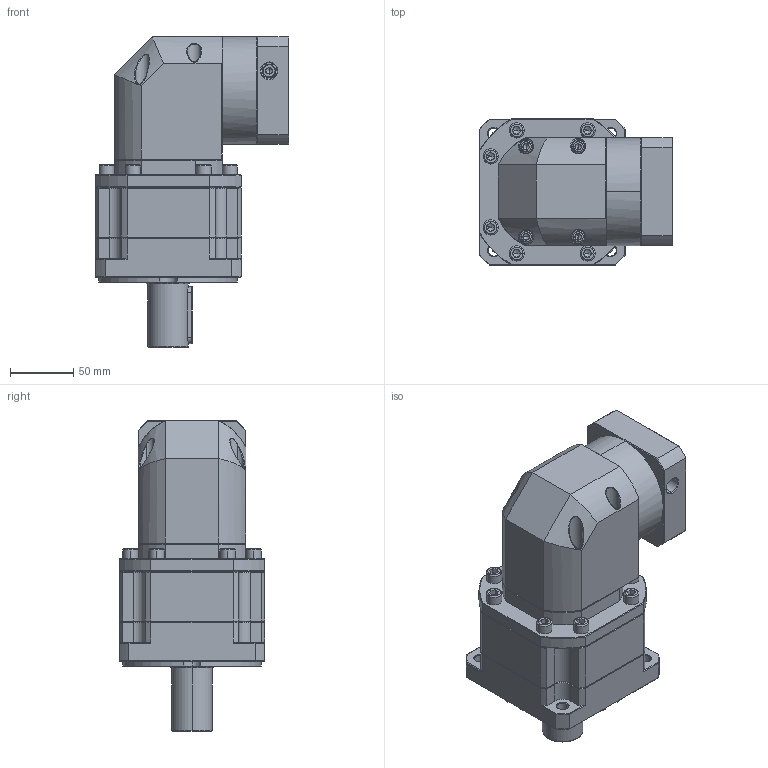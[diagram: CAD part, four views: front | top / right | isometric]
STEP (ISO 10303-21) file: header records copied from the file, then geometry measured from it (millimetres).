
FILE_DESCRIPTION (( 'STEP AP214' ), '1' );
FILE_NAME ('ZBR115A-D32-L2-P2-19-70-90-M6.step', '2023-08-26T13:34:43', ( '' ), ( '' ), 'SwSTEP 2.0', 'SolidWorks 2016', '' );
FILE_SCHEMA (( 'AUTOMOTIVE_DESIGN' ));
Length unit declared in the file: millimetre
Products named in the file (1): ZBR115A-D32-L2-P2-19-70-90-M6
Bounding box: 152.6 x 115 x 245 mm (x, y, z)
Volume: 1955389.1 mm3; surface area: 177670.3 mm2
Topology: 6 solids, 6 shells, 2595 faces, 6710 edges, 4224 vertices
Faces by surface type: plane 1281, cylinder 476, bspline 451, cone 373, torus 14
Entity records: 137407 total; most frequent: CARTESIAN_POINT 49460, ORIENTED_EDGE 13312, DIRECTION 10681, EDGE_CURVE 6656, VECTOR 4281, LINE 4281, VERTEX_POINT 4224, AXIS2_PLACEMENT_3D 3200
